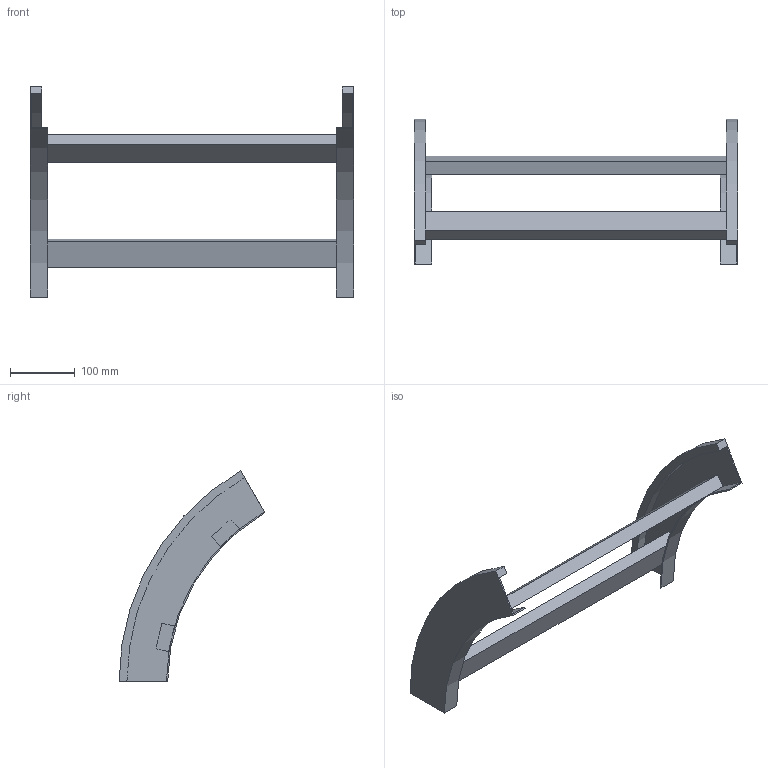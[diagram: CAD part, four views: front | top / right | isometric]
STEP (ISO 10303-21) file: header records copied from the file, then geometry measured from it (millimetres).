
FILE_DESCRIPTION (( 'STEP AP214' ), '1' );
FILE_NAME ('B2_41B3C500.step', '2025-02-21T15:00:38', ( '' ), ( '' ), 'SwSTEP 2.0', 'SolidWorks 2023', '' );
FILE_SCHEMA (( 'AUTOMOTIVE_DESIGN' ));
Length unit declared in the file: millimetre
Products named in the file (3): TRAVERSINO_500; B2_41B3C500; B2_LONGH.DISCESA_60°_H75_R300
Assembly tree (4 placements, depth 2):
  B2_41B3C500
    B2_LONGH.DISCESA_60°_H75_R300  x2
    TRAVERSINO_500  x2
Bounding box: 500 x 225 x 324.76 mm (x, y, z)
Volume: 1089453.1 mm3; surface area: 289947.4 mm2
Topology: 4 solids, 4 shells, 32 faces, 72 edges, 48 vertices
Faces by surface type: plane 24, cylinder 8
Entity records: 552 total; most frequent: DIRECTION 90, CARTESIAN_POINT 83, ORIENTED_EDGE 72, EDGE_CURVE 36, AXIS2_PLACEMENT_3D 31, LINE 28, VECTOR 28, VERTEX_POINT 24
